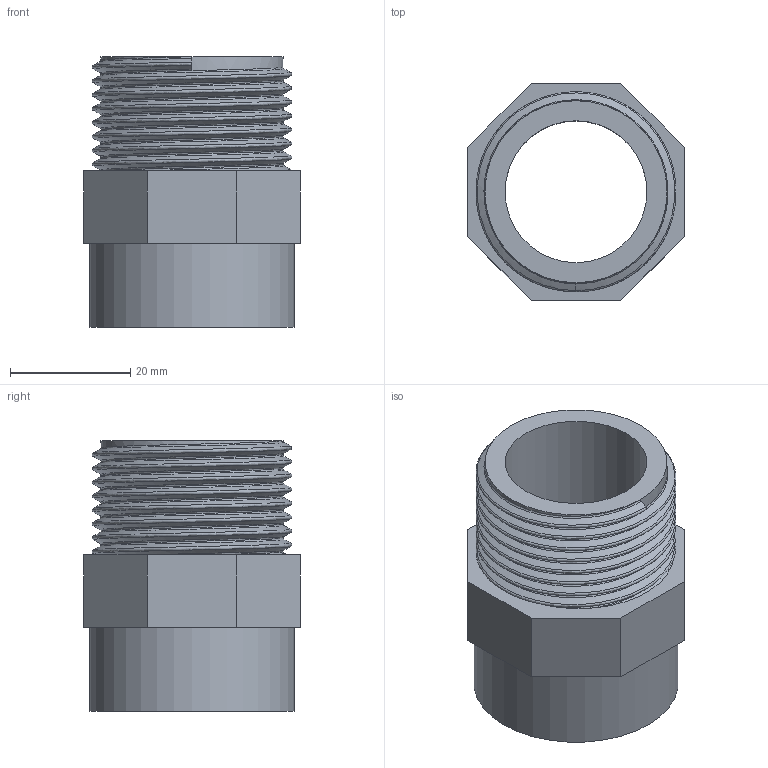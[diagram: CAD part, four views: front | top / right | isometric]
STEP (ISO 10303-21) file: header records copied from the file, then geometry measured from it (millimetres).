
FILE_DESCRIPTION(/* description */ (''),/* implementation_level */ '2;1');
FILE_NAME(/* name */ 'C:\Users\POLYPIPE\Desktop\DATASET INVENTOR\LIBRERIA EFFAST\RACCORDI 3DxWEB\RER\3D_RERRIE\3D_RERRIE032C.stp',/* time_stamp */ '2018-01-19T17:01:57+01:00',/* author */ ('POLYPIPE'),/* organization */ ('Polypipe Italia'),/* preprocessor_version */ 'ST-DEVELOPER v16.1',/* originating_system */ 'Autodesk Inventor 2016',/* authorisation */ '');
FILE_SCHEMA (('CONFIG_CONTROL_DESIGN'));
Length unit declared in the file: millimetre
Products named in the file (1): 3D_RERRIE032C
Bounding box: 36 x 36 x 45 mm (x, y, z)
Volume: 19642.3 mm3; surface area: 12018.1 mm2
Topology: 1 solids, 1 shells, 29 faces, 67 edges, 43 vertices
Faces by surface type: plane 15, bspline 10, cylinder 4
Full cylindrical faces by diameter (mm): 23.6 x1, 30.291 x1, 34 x1
Entity records: 7963 total; most frequent: CARTESIAN_POINT 7344, ORIENTED_EDGE 132, DIRECTION 94, EDGE_CURVE 65, VERTEX_POINT 43, EDGE_LOOP 36, AXIS2_PLACEMENT_3D 32, LINE 30
